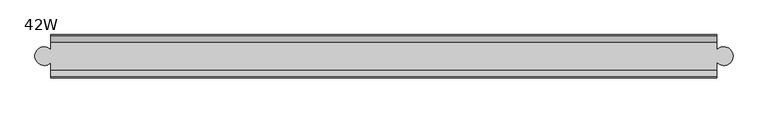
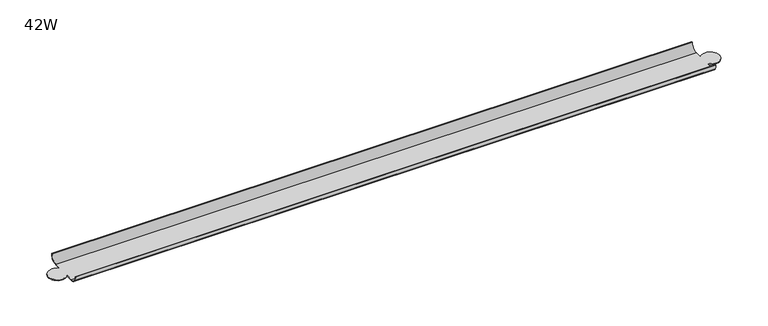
"""IFC4 building model written with IfcOpenShell, lengths in millimetres: furniture geometry, Steelcase - Groupwork - Marker Tray : 42W."""

from ifc_helpers import new_model, si_unit, frame, origin, place, context, project, spatial, polyline, circle_curve, source, transform, mapped, element, save
from ifc_brep_helpers import plane_surface, cylinder_surface, revolved_surface, advanced_brep


def furniture_42w_a0c92efd(model_context):
    return source(origin(), model_context, "Body", "AdvancedBrep", [
        advanced_brep(
        [(1039.2429397, 212.2245693, 1687.0172), (23.241, 212.2245693, 1687.0172), (23.241, 202.0295313, 1698.4980698), (1039.2429397, 202.0295313, 1698.4980698), (23.241, 200.7958824, 1698.4980698), (1039.2429397, 200.7958824, 1698.4980698), (23.241, 212.2245693, 1685.798), (1039.2429397, 212.2245693, 1685.798), (23.241, 223.9010128, 1685.798), (23.241, 244.1629734, 1685.798), (23.241, 255.3029693, 1685.798), (1039.2429397, 255.3029693, 1685.798), (1039.2429397, 243.3482016, 1685.798), (1039.2429397, 224.7157845, 1685.798), (23.241, 266.7329688, 1698.4980698), (1039.2429397, 266.7329688, 1698.4980698), (23.241, 265.5137686, 1698.4980698), (1039.2429397, 265.5137686, 1698.4980698), (23.241, 255.3029693, 1687.0172), (1039.2429397, 255.3029693, 1687.0172), (1039.2429397, 224.7157845, 1687.0172), (1039.2429397, 243.3482016, 1687.0172), (23.241, 244.1629734, 1687.0172), (23.241, 223.9010128, 1687.0172)],
        [
            (0, 1),
            (1, 2, circle_curve(frame((23.241, 212.2245693, 1697.2842432), z_axis=(-1.0, 0.0, 0.0), x_axis=(0.0, -1.0, 0.0)), 10.2670432)),
            (2, 3),
            (3, 0, circle_curve(frame((1039.2429397, 212.2245693, 1697.2842432), z_axis=(1.0, 0.0, 0.0), x_axis=(0.0, -1.0, 0.0)), 10.2670432)),
            (2, 4),
            (4, 5),
            (5, 3),
            (4, 6, circle_curve(frame((23.241, 212.2245693, 1697.2903249), z_axis=(1.0, 0.0, 0.0), x_axis=(0.0, -1.0, 0.0)), 11.4923249)),
            (6, 7),
            (7, 5, circle_curve(frame((1039.2429397, 212.2245693, 1697.2903249), z_axis=(-1.0, 0.0, 0.0), x_axis=(0.0, -1.0, 0.0)), 11.4923249)),
            (6, 8),
            (8, 9, circle_curve(frame((13.2330891, 234.0319931, 1685.798), z_axis=(0.0, 0.0, -1.0), x_axis=(1.0, 0.0, 0.0)), 14.2406124)),
            (9, 10),
            (10, 11),
            (11, 12),
            (12, 13, circle_curve(frame((1050.0134226, 234.0319931, 1685.798), z_axis=(0.0, 0.0, -1.0), x_axis=(1.0, 0.0, 0.0)), 14.2406124)),
            (13, 7),
            (10, 14, circle_curve(frame((23.241, 255.3029693, 1697.2915061), z_axis=(1.0, 0.0, 0.0), x_axis=(0.0, -1.0, 0.0)), 11.4935061)),
            (14, 15),
            (15, 11, circle_curve(frame((1039.2429397, 255.3029693, 1697.2915061), z_axis=(-1.0, 0.0, 0.0), x_axis=(0.0, -1.0, 0.0)), 11.4935061)),
            (14, 16),
            (16, 17),
            (17, 15),
            (16, 18, circle_curve(frame((23.241, 255.3029693, 1697.29825), z_axis=(-1.0, 0.0, 0.0), x_axis=(0.0, -1.0, 0.0)), 10.28105)),
            (18, 19),
            (19, 17, circle_curve(frame((1039.2429397, 255.3029693, 1697.29825), z_axis=(1.0, 0.0, 0.0), x_axis=(0.0, -1.0, 0.0)), 10.28105)),
            (0, 20),
            (20, 21, circle_curve(frame((1050.0134226, 234.0319931, 1687.0172), z_axis=(0.0, 0.0, 1.0), x_axis=(1.0, 0.0, 0.0)), 14.2406124)),
            (21, 19),
            (18, 22),
            (22, 23, circle_curve(frame((13.2330891, 234.0319931, 1687.0172), z_axis=(0.0, 0.0, 1.0), x_axis=(1.0, 0.0, 0.0)), 14.2406124)),
            (23, 1),
            (23, 8),
            (22, 9),
            (21, 12),
            (20, 13),
        ],
        [
            revolved_surface(polyline([(23.241, 201.95752610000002, 1697.2842432), (1039.2429397, 201.95752610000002, 1697.2842432)]), (-2.159, 212.2245693, 1697.2842432), (-1.0, 0.0, 0.0)),
            plane_surface(frame((1064.641, 202.0295313, 1698.4980698), z_axis=(0.0, 0.0, 1.0), x_axis=(-1.0, 0.0, 0.0))),
            cylinder_surface(frame((-2.159, 212.2245693, 1697.2903249), z_axis=(1.0, 0.0, 0.0), x_axis=(0.0, -1.0, 0.0)), 11.4923249),
            plane_surface(frame((1064.641, 212.2245693, 1685.798), z_axis=(0.0, 0.0, -1.0), x_axis=(-1.0, 0.0, 0.0))),
            cylinder_surface(frame((-2.159, 255.3029693, 1697.2915061), z_axis=(1.0, 0.0, 0.0), x_axis=(0.0, -1.0, 0.0)), 11.4935061),
            plane_surface(frame((1064.641, 266.7329688, 1698.4980698), z_axis=(0.0, 0.0, 1.0), x_axis=(-1.0, 0.0, 0.0))),
            revolved_surface(polyline([(23.241, 245.0219193, 1697.29825), (1039.2429397, 245.0219193, 1697.29825)]), (-2.159, 255.3029693, 1697.29825), (-1.0, 0.0, 0.0)),
            plane_surface(frame((1064.641, 255.3029693, 1687.0172), z_axis=(0.0, 0.0, 1.0), x_axis=(-1.0, 0.0, 0.0))),
            plane_surface(frame((23.241, 192.9089405, 1948.5186421), z_axis=(-1.0, 0.0, 0.0), x_axis=(0.0, 0.0, -1.0))),
            cylinder_surface(frame((13.2330891, 234.0319931, 0.0), z_axis=(0.0, 0.0, -1.0), x_axis=(1.0, 0.0, 0.0)), 14.2406124),
            plane_surface(frame((23.241, 244.1629734, 1948.5186421), z_axis=(-1.0, 0.0, 0.0), x_axis=(0.0, 0.0, -1.0))),
            plane_surface(frame((1039.2429397, 277.7490046, 1948.5186421), z_axis=(1.0, 0.0, 0.0), x_axis=(0.0, 0.0, -1.0))),
            cylinder_surface(frame((1050.0134226, 234.0319931, 0.0), z_axis=(0.0, 0.0, -1.0), x_axis=(1.0, 0.0, 0.0)), 14.2406124),
            plane_surface(frame((1039.2429397, 224.7157845, 1948.5186421), z_axis=(1.0, 0.0, 0.0), x_axis=(0.0, 0.0, -1.0))),
        ],
        [
            (0, [[1, 2, 3, 4]]),
            (1, [[-3, 5, 6, 7]]),
            (2, [[-6, 8, 9, 10]]),
            (3, [[-9, 11, 12, 13, 14, 15, 16, 17]]),
            (4, [[-14, 18, 19, 20]]),
            (5, [[-19, 21, 22, 23]]),
            (6, [[-22, 24, 25, 26]]),
            (7, [[-1, 27, 28, 29, -25, 30, 31, 32]]),
            (8, [[33, -11, -8, -5, -2, -32]]),
            (9, [[-33, -31, 34, -12]]),
            (10, [[-34, -30, -24, -21, -18, -13]]),
            (11, [[35, -15, -20, -23, -26, -29]]),
            (12, [[-35, -28, 36, -16]]),
            (13, [[-36, -27, -4, -7, -10, -17]]),
        ],
    ),
    ])


if __name__ == "__main__":
    model = new_model("IFC4")
    model_context = context("Model", 3, world=origin())
    ifc_project = project(units=[si_unit("LENGTHUNIT", "METRE", prefix="MILLI")], contexts=[model_context])
    site = spatial("IfcSite", under=ifc_project)
    building = spatial("IfcBuilding", under=site)
    placement = place(None, origin())
    furniture_42w_shape = furniture_42w_a0c92efd(model_context)
    element("IfcFurniture", 1, ObjectType="Steelcase - Groupwork - Marker Tray : 42W", at=placement, inside=building, context=model_context, shape_type="MappedRepresentation", body=[
        mapped(furniture_42w_shape, transform((0.0, 0.0, 0.0), x_axis=(1.0, 0.0, 0.0), y_axis=(0.0, 1.0, 0.0), z_axis=(0.0, 0.0, 1.0))),
    ])
    save(model, "model.ifc")
